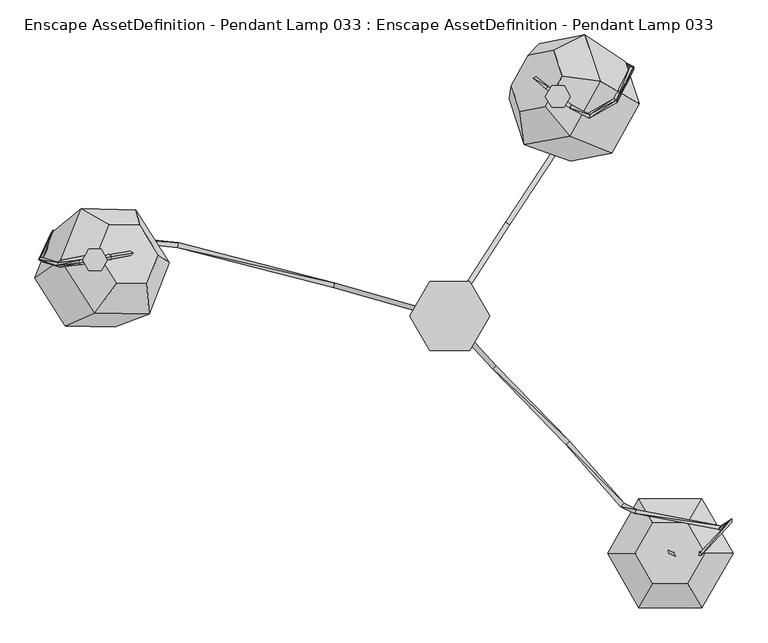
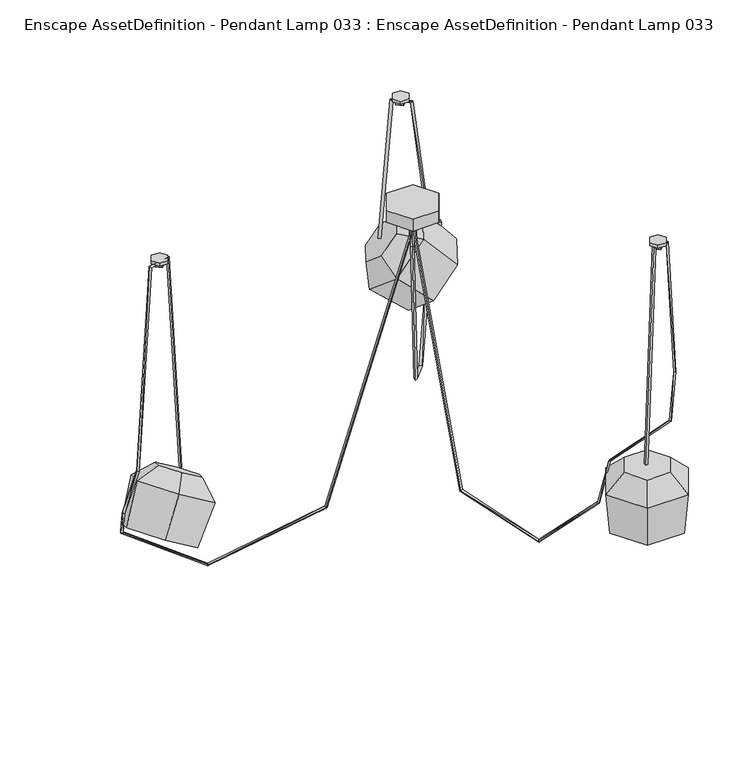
"""IFC4 building model written with IfcOpenShell, lengths in millimetres: geographic element geometry, Enscape AssetDefinition - Pendant Lamp 033 : Enscape AssetDefinition - Pendant Lamp 033."""

import ifcopenshell
import ifcopenshell.guid

model = None  # the IFC model being written
_history = None  # IfcOwnerHistory: only IFC2X3 demands one
_inside = {}  # id of a spatial element -> (the spatial element, [elements in it])
_under = {}  # id of a project, library or spatial element -> (it, [spatial elements below it])
_declared = {}  # id of a project -> (the project, [libraries it declares])
_typed = {}  # id of a type object -> (the type object, [elements of that type])
_made_of = {}  # id of a material, layer set ... -> (it, [elements and type objects made of it])


def new_model(schema):
    """Start an empty IFC model of exactly this schema.

    Asked for "IFC4X3", IfcOpenShell would pick the latest addendum, in which some entities
    have other attributes; the version numbers below select the first issue.
    IFC2X3 requires an IfcOwnerHistory on every rooted entity: one is made here for all.
    """
    global model, _history
    if schema == "IFC4X3":
        model = ifcopenshell.file(schema_version=(4, 3, 0, 0))
    else:
        model = ifcopenshell.file(schema=schema)
    _inside.clear()
    _under.clear()
    _declared.clear()
    _typed.clear()
    _made_of.clear()
    _history = None
    if model.schema == "IFC2X3":
        org = make("IfcOrganization", Name="unknown")
        user = make(
            "IfcPersonAndOrganization",
            ThePerson=make("IfcPerson", FamilyName="unknown"),
            TheOrganization=org,
        )
        app = make(
            "IfcApplication",
            ApplicationDeveloper=org,
            Version="unknown",
            ApplicationFullName="unknown",
            ApplicationIdentifier="unknown",
        )
        _history = make(
            "IfcOwnerHistory",
            OwningUser=user,
            OwningApplication=app,
            ChangeAction="ADDED",
            CreationDate=0,
        )
    return model


def make(cls, **values):
    """One entity of the class cls with the attributes given. An attribute that is None is left unset."""
    return model.create_entity(
        cls, **{name: value for name, value in values.items() if value is not None}
    )


def rooted(cls, **values):
    """An entity with a GlobalId (a new one), such as an element, a storey or a relation."""
    return make(cls, GlobalId=ifcopenshell.guid.new(), OwnerHistory=_history, **values)


def si_unit(unit_type, name, prefix=None):
    """IfcSIUnit, for example si_unit("LENGTHUNIT", "METRE", prefix="MILLI")."""
    return make("IfcSIUnit", UnitType=unit_type, Prefix=prefix, Name=name)


def assignment(units):
    """IfcUnitAssignment: the units of a project."""
    return None if units is None else make("IfcUnitAssignment", Units=units)


def point(xyz):
    """IfcCartesianPoint."""
    return None if xyz is None else make("IfcCartesianPoint", Coordinates=xyz)


def direction(xyz):
    """IfcDirection."""
    return None if xyz is None else make("IfcDirection", DirectionRatios=xyz)


def frame(location, z_axis=None, x_axis=None):
    """IfcAxis2Placement3D, a coordinate frame: its origin and axes. An axis left out is left unset."""
    return make(
        "IfcAxis2Placement3D",
        Location=point(location),
        Axis=direction(z_axis),
        RefDirection=direction(x_axis),
    )


def origin():
    """The frame at (0, 0, 0) with its axes left unset."""
    return frame((0.0, 0.0, 0.0))


def place(relative_to, where):
    """IfcLocalPlacement: puts the frame where relative to a parent placement (None: the world)."""
    return make(
        "IfcLocalPlacement", PlacementRelTo=relative_to, RelativePlacement=where
    )


def context(
    kind, dimensions, precision=None, world=None, true_north=None, identifier=None
):
    """IfcGeometricRepresentationContext, for example the 3D "Model" context."""
    return make(
        "IfcGeometricRepresentationContext",
        ContextIdentifier=identifier,
        ContextType=kind,
        CoordinateSpaceDimension=dimensions,
        Precision=precision,
        WorldCoordinateSystem=world,
        TrueNorth=true_north,
    )


def project(units=None, contexts=None):
    """IfcProject with its units and contexts."""
    return rooted(
        "IfcProject",
        Name="project",
        RepresentationContexts=contexts,
        UnitsInContext=assignment(units),
    )


def spatial(cls, under=None, at=None, **own):
    """A site, building, storey or space (cls), placed at a placement, below another one or the project."""
    s = rooted(cls, ObjectPlacement=at, **own)
    if under is not None:
        _under.setdefault(under.id(), (under, []))[1].append(s)
    return s


def point_list(points):
    """IfcCartesianPointList2D or 3D."""
    cls = (
        "IfcCartesianPointList2D" if len(points[0]) == 2 else "IfcCartesianPointList3D"
    )
    return make(cls, CoordList=points)


def triangles(points, corners, closed=None, point_numbers=None):
    """IfcTriangulatedFaceSet: each triangle names its three corners, points numbered from 1."""
    return make(
        "IfcTriangulatedFaceSet",
        Coordinates=point_list(points),
        Closed=closed,
        CoordIndex=corners,
        PnIndex=point_numbers,
    )


def shape(context_of_items, identifier, shape_type, items):
    """IfcShapeRepresentation: the items that make up one representation, for example the "Body"."""
    return make(
        "IfcShapeRepresentation",
        ContextOfItems=context_of_items,
        RepresentationIdentifier=identifier,
        RepresentationType=shape_type,
        Items=items,
    )


def source(mapping_origin, context_of_items, identifier, shape_type, items):
    """IfcRepresentationMap: a shape defined once, which mapped items show again and again."""
    return make(
        "IfcRepresentationMap",
        MappingOrigin=mapping_origin,
        MappedRepresentation=shape(context_of_items, identifier, shape_type, items),
    )


def transform(
    local_origin,
    x_axis=None,
    y_axis=None,
    z_axis=None,
    scale=None,
    scale2=None,
    scale3=None,
    uniform=True,
):
    """IfcCartesianTransformationOperator3D, or its non-uniform kind. x_axis, y_axis, z_axis: its Axis1, 2, 3."""
    if uniform:
        return make(
            "IfcCartesianTransformationOperator3D",
            Axis1=direction(x_axis),
            Axis2=direction(y_axis),
            LocalOrigin=point(local_origin),
            Scale=scale,
            Axis3=direction(z_axis),
        )
    return make(
        "IfcCartesianTransformationOperator3DnonUniform",
        Axis1=direction(x_axis),
        Axis2=direction(y_axis),
        LocalOrigin=point(local_origin),
        Scale=scale,
        Axis3=direction(z_axis),
        Scale2=scale2,
        Scale3=scale3,
    )


def mapped(mapping_source, mapping_target):
    """IfcMappedItem: shows the shape of a source again, moved by a transform."""
    return make(
        "IfcMappedItem", MappingSource=mapping_source, MappingTarget=mapping_target
    )


def made_of(thing, what):
    """Note that an element or type object is made of a material, layer set ...; save() writes the relation."""
    if what is not None:
        _made_of.setdefault(what.id(), (what, []))[1].append(thing)
    return thing


def element(
    cls,
    number,
    at=None,
    inside=None,
    cuts=None,
    type_object=None,
    material=None,
    context=None,
    identifier="Body",
    shape_type=None,
    held_by="IfcProductDefinitionShape",
    body=None,
    shapes=None,
    **own,
):
    """One element of the class cls, such as IfcWall. Its Tag is "e" and its number.

    at: its placement. inside: the storey or other place that contains it. cuts: it is an
    opening in that element (IfcRelVoidsElement). A single representation is given by context,
    identifier, shape_type and body (its items); several are given by shapes. held_by: the class
    of the entity that holds the representations. save() writes the other relations.
    """
    e = rooted(cls, Tag="e%d" % number, ObjectPlacement=at, **own)
    if body is not None:
        shapes = [shape(context, identifier, shape_type, body)]
    if shapes is not None:
        e.Representation = make(held_by, Representations=shapes)
    if inside is not None:
        _inside.setdefault(inside.id(), (inside, []))[1].append(e)
    if cuts is not None:
        rooted(
            "IfcRelVoidsElement", RelatingBuildingElement=cuts, RelatedOpeningElement=e
        )
    if type_object is not None:
        _typed.setdefault(type_object.id(), (type_object, []))[1].append(e)
    return made_of(e, material)


def aggregate(whole, parts):
    """IfcRelAggregates: a whole, such as a stair, and the parts it consists of."""
    return rooted("IfcRelAggregates", RelatingObject=whole, RelatedObjects=parts)


def save(model, path):
    """Write the relations noted so far, then the file.

    IfcRelAggregates (storeys below a building ...), IfcRelContainedInSpatialStructure (elements
    in a storey), IfcRelDefinesByType, IfcRelAssociatesMaterial and IfcRelDeclares: one each for
    every whole, place, type object, material and project.
    """
    for whole, parts in _under.values():
        aggregate(whole, parts)
    for where, things in _inside.values():
        rooted(
            "IfcRelContainedInSpatialStructure",
            RelatedElements=things,
            RelatingStructure=where,
        )
    for kind, things in _typed.values():
        rooted("IfcRelDefinesByType", RelatedObjects=things, RelatingType=kind)
    for what, things in _made_of.values():
        rooted("IfcRelAssociatesMaterial", RelatedObjects=things, RelatingMaterial=what)
    for by, libraries in _declared.values():
        rooted("IfcRelDeclares", RelatingContext=by, RelatedDefinitions=libraries)
    model.write(path)


def enscape_assetdefinition_pendant_lamp_033_enscape_3b239a00(model_context):
    return source(origin(), model_context, "Body", "Tessellation", [
        triangles([(475.5183586, -512.070706, -9.7715125), (501.0456885, -512.070706, -9.7715125), (513.808863, -489.9633708, -9.7715125), (462.7542031, -489.9633708, -9.7715125), (513.808863, -489.9633708, 0.0977151), (501.0456885, -467.8560719, -9.7715125), (475.5183586, -467.8560719, -9.7715125), (462.7542031, -489.9633708, 0.0977151), (475.5183586, -512.070706, 0.0977151), (501.0456885, -512.070706, 0.0977151), (475.5183586, -467.8560719, 0.0977151), (501.0456885, -467.8560719, 0.0977151), (488.2815331, -505.636324, -7.3365315), (472.6086162, -489.9633708, -23.2127728), (488.2815331, -505.636324, -23.2127728), (488.2815331, -474.2904902, -23.2127728), (503.9544863, -489.9633708, -23.2127728), (472.6086162, -489.9633708, -7.3365315), (488.2815331, -474.2904902, -7.3365315), (503.9544863, -489.9633708, -7.3365315), (512.9491771, -591.1785227, -921.8474379), (395.8469499, -591.1785227, -921.8474379), (337.2958726, -489.7650181, -921.8474379), (395.8469499, -388.3525309, -921.8474379), (519.1200213, -377.6640481, -789.9103603), (583.8419792, -489.7650181, -789.9103603), (512.9491771, -388.3525309, -921.8474379), (571.5002907, -489.7650181, -921.8474379), (389.6761056, -377.6640481, -789.9103603), (382.1382299, -489.7650181, -735.5747961), (324.9541114, -489.7650181, -789.9103603), (418.2681467, -427.18588, -735.5747961), (490.5279802, -427.18588, -735.5747961), (526.657897, -489.7650181, -735.5747961), (418.2681467, -552.3441562, -735.5747961), (519.1200213, -601.8669691, -789.9103603), (389.6761056, -601.8669691, -789.9103603), (490.5279802, -552.3441562, -735.5747961), (40.7590537, 71.4810884, -38.9419453), (40.7590537, 71.4810884, 0.1490402), (81.85962, 0.2931454, -38.9419453), (81.85962, 0.2931454, 0.1490402), (-41.4410842, 71.4810884, 0.1490402), (-41.4410842, -70.8938104, -38.9419453), (40.7590537, -70.8938104, -38.9419453), (40.7590537, -70.8938104, 0.1490402), (-41.4410842, -70.8938104, 0.1490402), (-41.4410842, 71.4810884, -38.9419453), (-82.541646, 0.2931454, -38.9419453), (-82.541646, 0.2931454, 0.1490402), (-577.9909555, 109.8643878, -845.2714434), (-792.3779423, -20.3306699, -834.2592522), (-691.2013418, -22.8288209, -893.1646683), (-653.0726372, 73.2745063, -948.1477221), (-716.1216957, 171.8759914, -944.2262318), (-817.2992409, 174.3741311, -885.3208157), (-759.5249331, 221.6198846, -775.8235748), (-855.4269281, 78.2708038, -830.3368172), (-801.6707617, 115.3877516, -715.0447992), (-647.6845213, 218.8581891, -840.9374056), (-725.734263, 129.3442398, -698.8853205), (-639.7735216, 187.1057304, -769.1631529), (-702.2065567, 188.6474605, -732.8142088), (-686.8287889, 68.5002792, -701.3053762), (-600.8671391, 126.2617699, -771.5823366), (-731.9771959, 6.3939258, -719.3798544), (-620.1367115, 3.6322393, -784.4936125), (-624.3948092, 66.9585537, -737.653521), (333.6280732, 335.6366715, -529.0573145), (309.5082519, 484.4213036, -429.0612016), (249.0205922, 319.4356982, -608.3793623), (389.9623163, 438.1556683, -523.6465256), (122.4597581, 448.6042311, -604.4253885), (184.7309481, 561.9271468, -598.4439949), (277.0816156, 508.2716283, -676.8796143), (220.7473725, 405.7527042, -682.2904032), (126.9694756, 474.8659275, -530.1805744), (153.7128014, 353.1898879, -522.7246342), (361.6891148, 524.4726379, -597.5576755), (161.7313708, 538.1271097, -526.841534), (278.2551995, 579.8356467, -510.7619196), (213.9408657, 548.1246099, -477.894122), (144.4160669, 421.6023182, -484.5722754), (231.3874752, 494.8600196, -432.2858231), (196.6255527, 431.5988737, -435.6248998), (247.2370347, 371.0983878, -435.0425952), (-718.7214643, 93.490687, -9.7715125), (-757.0119324, 115.5979858, -9.7715125), (-744.2488306, 93.490687, -9.7715125), (-744.2488306, 137.7052938, -9.7715125), (-744.2488306, 93.490687, 0.0977151), (-705.9572725, 115.5979858, -9.7715125), (-718.7214643, 137.7052938, 0.0977151), (-757.0119324, 115.5979858, 0.0977151), (-718.7214643, 93.490687, 0.0977151), (-705.9572725, 115.5979858, 0.0977151), (-744.2488306, 137.7052938, 0.0977151), (-718.7214643, 137.7052938, -9.7715125), (-731.4845661, 99.925078, -23.2127728), (-731.4845661, 99.925078, -7.3365315), (-747.1575193, 115.5979858, -23.2127728), (-747.1575193, 115.5979858, -7.3365315), (-731.4845661, 131.2709027, -23.2127728), (-715.8117582, 115.5979858, -7.3365315), (-715.8117582, 115.5979858, -23.2127728), (-731.4845661, 131.2709027, -7.3365315), (235.3523313, 430.6700787, -9.7715125), (235.3523313, 430.6700787, 0.0987022), (209.8259643, 430.6700787, -9.7715125), (248.1164868, 452.7773775, 0.0987022), (209.8259643, 474.8836953, -9.7715125), (248.1164868, 452.7773775, -9.7715125), (235.3523313, 474.8836953, -9.7715125), (235.3523313, 474.8836953, 0.0987022), (197.0618088, 452.7773775, 0.0987022), (209.8259643, 474.8836953, 0.0987022), (197.0618088, 452.7773775, -9.7715125), (209.8259643, 430.6700787, 0.0987022), (222.5891569, 437.1034432, -23.2127728), (206.9162218, 452.7773775, -23.2127728), (222.5891569, 437.1034432, -7.3365315), (222.5891569, 468.4502944, -23.2127728), (238.2620556, 452.7773775, -23.2127728), (206.9162218, 452.7773775, -7.3365315), (238.2620556, 452.7773775, -7.3365315), (222.5891569, 468.4502944, -7.3365315), (-12.0416626, -6.236002, -107.0187947), (-237.672811, 67.9613632, -968.3638573), (-9.3510423, 3.2601321, -107.0187947), (-8.5525422, -6.1323649, -35.822961), (-235.0611609, 62.0915498, -972.016832), (-6.1185463, -2.7853749, -108.3295614), (-5.860934, 3.3637692, -35.822961), (-2.6294254, -2.6817375, -37.1337231), (-559.8011138, 151.4475963, -1095.9719112), (-240.32988, 58.4553618, -968.2385015), (-561.3536716, 146.5657994, -1101.1626554), (-561.4958505, 141.6977917, -1095.2701372), (-816.0674847, 166.7276683, -914.8297703), (-821.3095339, 171.8444163, -917.2469919), (-817.9881523, 176.8101016, -913.6315876), (-841.9501345, 112.447415, -809.4188353), (-843.613187, 121.8774172, -806.6275085), (-806.4518652, 110.3203828, -674.5186392), (-847.8001408, 116.1072934, -808.1692749), (-804.3702335, 100.6771851, -675.2510799), (-760.93444, 105.8768132, -16.1713626), (-810.1887011, 104.4397098, -674.1050743), (-763.2617689, 115.4627651, -15.5278233), (-766.5693432, 109.5238653, -10.9263282), (-697.5013933, 122.1577326, -10.9075759), (-702.6813824, 126.5519593, -15.5011727), (-701.5265837, 116.7518216, -16.1644521), (-658.5476664, 134.0848934, -729.7464455), (-653.0964003, 129.7360763, -729.4493706), (-657.4323275, 124.2778521, -729.7810364), (0.3760552, -14.2407471, -123.4576351), (5.3101762, -2.1990841, -34.8013891), (-1.6216764, -1.971082, -35.5880485), (88.9128686, -102.7696627, -929.5374481), (0.6938761, -7.3128423, -124.2442967), (7.6247413, -7.5408443, -123.4576351), (-1.9385104, -8.8989867, -34.8013891), (95.5821836, -102.7143972, -926.3640953), (247.1156576, -259.1543487, -1051.0258902), (88.3473054, -109.4281226, -926.4855268), (239.8807795, -265.8710535, -1051.0723263), (358.8306773, -393.4041121, -887.6886217), (244.0943667, -263.0254241, -1057.1829271), (386.3231853, -399.941104, -748.5522017), (352.2215604, -393.6715739, -885.1549828), (386.53738, -406.805874, -749.9636707), (359.1613621, -386.6311606, -885.2575928), (380.3280207, -407.5994302, -745.5121983), (552.7488553, -440.5481821, -653.5809637), (558.2623632, -432.9126017, -657.0928133), (574.3764596, -426.1988763, -508.9369583), (559.0765941, -439.9372092, -658.0038769), (581.3922378, -425.4200721, -508.989208), (511.7647654, -493.6420707, -20.4984649), (580.7289062, -418.4359417, -508.8362741), (468.7542729, -491.3600515, -11.2066424), (516.9811257, -486.5670665, -13.9140433), (476.6445253, -496.8656748, -20.0552893), (517.944439, -493.4722773, -14.3868262), (457.7154482, -488.3812363, -737.7216127), (449.5981748, -482.7739477, -737.4393625), (469.9910434, -498.2168641, -12.0090905), (450.8526767, -489.6377003, -737.5548351), (15.7054867, 20.6208548, -163.7735427), (-1.4301941, 7.342453, -34.5102209), (9.0322334, 19.3535175, -165.3774237), (6.8805268, 2.0174719, -34.5102209), (7.393779, 25.9458341, -163.7735427), (116.8031448, 187.5824455, -746.7241882), (0.2072745, 0.7501363, -36.1141292), (123.1230443, 188.2990261, -743.2153181), (239.5827054, 383.7214182, -860.1705339), (244.0430436, 381.4078239, -865.9119713), (247.7088445, 378.1151107, -859.9109568), (114.8221883, 193.6388164, -743.2686579), (350.0994879, 528.3368279, -716.9191034), (350.7834941, 521.1572153, -714.7615316), (343.4963299, 527.915342, -714.2215937), (379.2650042, 507.9331315, -554.4179031), (372.0725653, 514.4376037, -552.5800429), (344.4507774, 440.5590463, -453.7673607), (337.588987, 447.9123402, -453.642005), (379.2383706, 514.7327165, -552.062887), (343.7647728, 446.5245978, -450.2071856), (281.9949966, 416.0157769, -407.5994302), (288.6070567, 415.1600152, -404.4064201), (243.9482819, 437.2939839, -20.4185143), (287.7809443, 408.1195656, -406.3310846), (249.9493873, 435.5627669, -13.8015218), (247.5657392, 429.0760626, -11.3625922), (207.2261593, 466.8641267, -20.9584137), (198.1080567, 468.8145164, -12.1206253), (203.9206198, 472.5631974, -14.4657879), (181.786651, 488.1492737, -479.1120709), (178.1366558, 494.0822328, -478.6768141), (172.2007173, 490.4154871, -478.4794061)], [[222, 221, 220], [219, 221, 222], [221, 219, 217], [217, 220, 221], [222, 218, 219], [218, 222, 220], [218, 220, 217], [215, 219, 218], [219, 215, 213], [213, 217, 219], [218, 216, 215], [216, 218, 217], [216, 217, 213], [212, 215, 216], [215, 212, 211], [211, 213, 215], [216, 214, 212], [214, 216, 213], [214, 213, 211], [210, 212, 214], [212, 210, 208], [208, 211, 212], [214, 207, 210], [207, 214, 211], [207, 211, 208], [209, 210, 207], [210, 209, 206], [206, 208, 210], [207, 205, 209], [205, 207, 208], [205, 208, 206], [202, 209, 205], [209, 202, 204], [204, 206, 209], [205, 203, 202], [203, 205, 206], [203, 206, 204], [199, 202, 203], [202, 199, 198], [198, 204, 202], [201, 198, 199], [203, 200, 199], [200, 203, 204], [200, 204, 198], [199, 195, 201], [195, 199, 200], [200, 197, 195], [197, 200, 198], [197, 198, 201], [192, 193, 196], [192, 195, 197], [194, 192, 196], [195, 192, 194], [194, 201, 195], [191, 196, 193], [194, 196, 191], [192, 190, 193], [190, 194, 191], [197, 190, 192], [190, 197, 201], [190, 191, 193], [190, 201, 194], [186, 189, 187], [188, 189, 186], [189, 188, 182], [182, 187, 189], [186, 184, 188], [184, 186, 187], [184, 187, 182], [185, 188, 184], [188, 185, 183], [183, 182, 188], [184, 180, 185], [180, 184, 182], [180, 182, 183], [179, 185, 180], [185, 179, 181], [181, 183, 185], [180, 177, 179], [177, 180, 183], [177, 183, 181], [178, 179, 177], [179, 178, 176], [176, 181, 179], [177, 175, 178], [175, 177, 181], [175, 181, 176], [172, 178, 175], [178, 172, 170], [170, 176, 178], [175, 174, 172], [174, 175, 176], [174, 176, 170], [168, 172, 174], [172, 168, 173], [173, 170, 172], [174, 171, 168], [171, 174, 170], [171, 170, 173], [169, 168, 171], [168, 169, 165], [165, 173, 168], [164, 165, 169], [171, 167, 169], [167, 171, 173], [167, 173, 165], [169, 160, 164], [160, 169, 167], [167, 166, 160], [166, 167, 165], [166, 165, 164], [161, 163, 159], [161, 160, 166], [162, 161, 159], [160, 161, 162], [162, 164, 160], [158, 159, 163], [162, 159, 158], [161, 157, 163], [157, 162, 158], [166, 157, 161], [157, 166, 164], [157, 158, 163], [157, 164, 162], [154, 155, 156], [151, 155, 154], [155, 151, 153], [153, 156, 155], [154, 152, 151], [152, 154, 156], [152, 156, 153], [150, 151, 152], [151, 150, 147], [147, 153, 151], [152, 149, 150], [149, 152, 153], [149, 153, 147], [148, 150, 149], [150, 148, 146], [146, 147, 150], [149, 144, 148], [144, 149, 147], [144, 147, 146], [145, 148, 144], [148, 145, 142], [142, 146, 148], [144, 143, 145], [143, 144, 146], [143, 146, 142], [140, 145, 143], [145, 140, 139], [139, 142, 145], [143, 141, 140], [141, 143, 142], [141, 142, 139], [137, 140, 141], [140, 137, 138], [138, 139, 140], [136, 138, 137], [141, 135, 137], [135, 141, 139], [135, 139, 138], [137, 131, 136], [131, 137, 135], [135, 128, 131], [128, 135, 138], [128, 138, 136], [132, 133, 134], [132, 131, 128], [127, 132, 134], [131, 132, 127], [127, 136, 131], [130, 134, 133], [127, 134, 130], [132, 129, 133], [129, 127, 130], [128, 129, 132], [129, 128, 136], [129, 130, 133], [129, 136, 127], [122, 124, 126], [125, 126, 124], [121, 125, 124], [123, 122, 126], [123, 126, 125], [122, 120, 124], [120, 122, 123], [120, 121, 124], [119, 123, 125], [120, 119, 121], [119, 125, 121], [119, 120, 123], [113, 116, 114], [110, 114, 116], [110, 116, 118], [108, 110, 118], [116, 115, 118], [117, 118, 115], [111, 117, 115], [113, 111, 116], [111, 115, 116], [112, 113, 114], [111, 113, 112], [112, 114, 110], [117, 109, 118], [109, 111, 112], [109, 117, 111], [109, 108, 118], [107, 112, 110], [109, 107, 108], [107, 110, 108], [107, 109, 112], [103, 102, 106], [104, 106, 102], [100, 104, 102], [105, 103, 106], [105, 106, 104], [103, 101, 102], [101, 103, 105], [101, 100, 102], [99, 105, 104], [101, 99, 100], [99, 104, 100], [99, 101, 105], [98, 97, 93], [96, 93, 97], [96, 97, 91], [95, 96, 91], [97, 94, 91], [88, 91, 94], [90, 88, 94], [98, 90, 97], [90, 94, 97], [92, 98, 93], [90, 98, 92], [92, 93, 96], [88, 89, 91], [89, 90, 92], [89, 88, 90], [89, 95, 91], [87, 92, 96], [89, 87, 95], [87, 96, 95], [87, 89, 92], [78, 86, 85], [86, 70, 84], [86, 84, 85], [70, 82, 84], [78, 85, 83], [85, 84, 83], [84, 80, 83], [80, 77, 83], [84, 82, 80], [70, 81, 82], [81, 80, 82], [81, 74, 80], [74, 77, 80], [79, 74, 81], [73, 78, 83], [74, 73, 77], [73, 83, 77], [76, 78, 73], [75, 76, 73], [79, 75, 74], [75, 73, 74], [72, 79, 81], [75, 79, 72], [72, 81, 70], [76, 71, 78], [71, 75, 72], [71, 76, 75], [71, 86, 78], [69, 72, 70], [71, 69, 86], [69, 70, 86], [69, 71, 72], [66, 67, 68], [67, 51, 65], [67, 65, 68], [51, 62, 65], [66, 68, 64], [68, 65, 64], [65, 63, 64], [63, 61, 64], [65, 62, 63], [51, 60, 62], [60, 63, 62], [60, 57, 63], [57, 61, 63], [55, 57, 60], [59, 66, 64], [57, 59, 61], [59, 64, 61], [58, 66, 59], [56, 58, 59], [55, 56, 57], [56, 59, 57], [54, 55, 60], [56, 55, 54], [54, 60, 51], [58, 52, 66], [52, 56, 54], [52, 58, 56], [52, 67, 66], [53, 54, 51], [52, 53, 67], [53, 51, 67], [53, 52, 54], [48, 49, 50], [49, 47, 50], [47, 46, 43], [50, 47, 43], [48, 50, 43], [39, 48, 43], [49, 44, 47], [48, 39, 44], [49, 48, 44], [44, 46, 47], [44, 45, 46], [46, 42, 43], [45, 42, 46], [42, 40, 43], [39, 43, 40], [45, 41, 42], [41, 39, 40], [41, 45, 44], [39, 41, 44], [41, 40, 42], [37, 36, 38], [36, 26, 34], [36, 34, 38], [26, 33, 34], [37, 38, 35], [38, 34, 35], [34, 32, 35], [32, 30, 35], [34, 33, 32], [26, 25, 33], [25, 32, 33], [25, 29, 32], [29, 30, 32], [27, 29, 25], [31, 37, 35], [29, 31, 30], [31, 35, 30], [23, 37, 31], [24, 23, 31], [27, 24, 29], [24, 31, 29], [28, 27, 25], [24, 27, 28], [28, 25, 26], [23, 22, 37], [22, 24, 28], [22, 23, 24], [22, 36, 37], [21, 28, 26], [22, 21, 36], [21, 26, 36], [21, 22, 28], [16, 18, 19], [20, 19, 18], [13, 20, 18], [17, 16, 19], [17, 19, 20], [16, 14, 18], [14, 16, 17], [14, 13, 18], [15, 17, 20], [14, 15, 13], [15, 20, 13], [15, 14, 17], [6, 11, 12], [5, 12, 11], [5, 11, 9], [10, 5, 9], [11, 8, 9], [4, 9, 8], [7, 4, 8], [6, 7, 11], [7, 8, 11], [3, 6, 12], [7, 6, 3], [3, 12, 5], [4, 1, 9], [1, 7, 3], [1, 4, 7], [1, 10, 9], [2, 3, 5], [1, 2, 10], [2, 5, 10], [2, 1, 3]]),
    ])


if __name__ == "__main__":
    model = new_model("IFC4")
    model_context = context("Model", 3, world=origin())
    ifc_project = project(units=[si_unit("LENGTHUNIT", "METRE", prefix="MILLI")], contexts=[model_context])
    site = spatial("IfcSite", under=ifc_project)
    building = spatial("IfcBuilding", under=site)
    placement = place(None, origin())
    enscape_assetdefinition_pendant_lamp_033_enscape_shape = enscape_assetdefinition_pendant_lamp_033_enscape_3b239a00(model_context)
    element("IfcGeographicElement", 1, ObjectType="Enscape AssetDefinition - Pendant Lamp 033 : Enscape AssetDefinition - Pendant Lamp 033", at=placement, inside=building, context=model_context, shape_type="MappedRepresentation", body=[
        mapped(enscape_assetdefinition_pendant_lamp_033_enscape_shape, transform((0.0, 0.0, 0.0), x_axis=(1.0, 0.0, 0.0), y_axis=(0.0, 1.0, 0.0), z_axis=(0.0, 0.0, 1.0))),
    ])
    save(model, "model.ifc")
